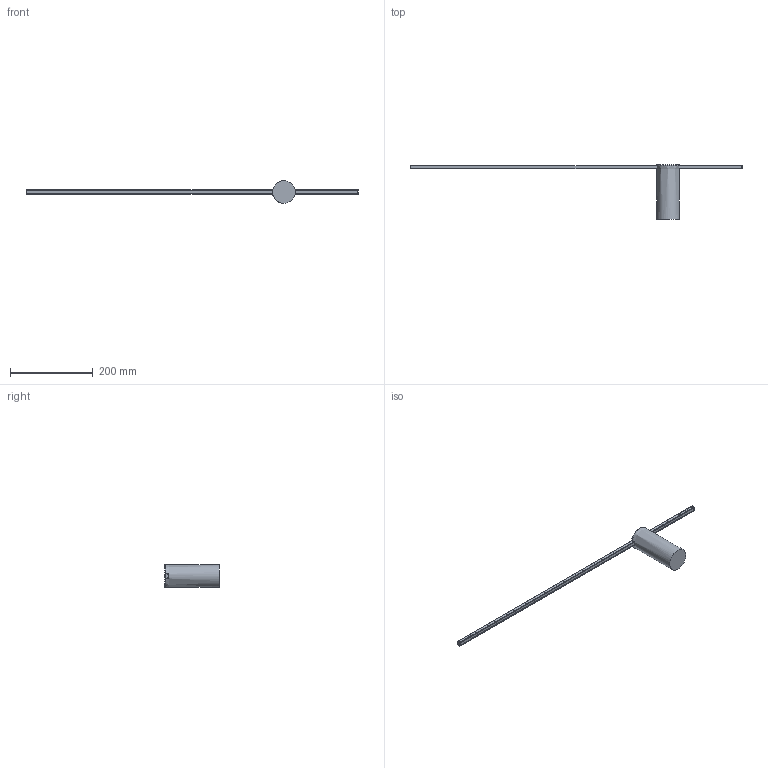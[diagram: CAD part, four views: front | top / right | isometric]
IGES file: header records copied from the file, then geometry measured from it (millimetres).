
Start section: SolidWorks IGES file using analytic representation for surfaces
Global section: file name: X:\PRODUKT\Modele 3D_WWW\_KOLEKCJE WWW\SABER\SABER-LED-M-10312\SABER-LED-M-10312.IGS; native system: SolidWorks 2021; preprocessor: SolidWorks 2021; author: gabriela.tworek; date: 221118.122649; units: millimetre
Bounding box: 804 x 132 x 55 mm (x, y, z)
Surface area: 96061.5 mm2 (no closed solid volume)
Topology: 0 solids, 0 shells, 56 faces, 249 edges, 247 vertices
Faces by surface type: bspline 54, revolution 2
